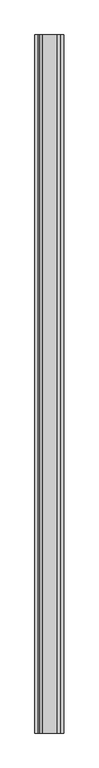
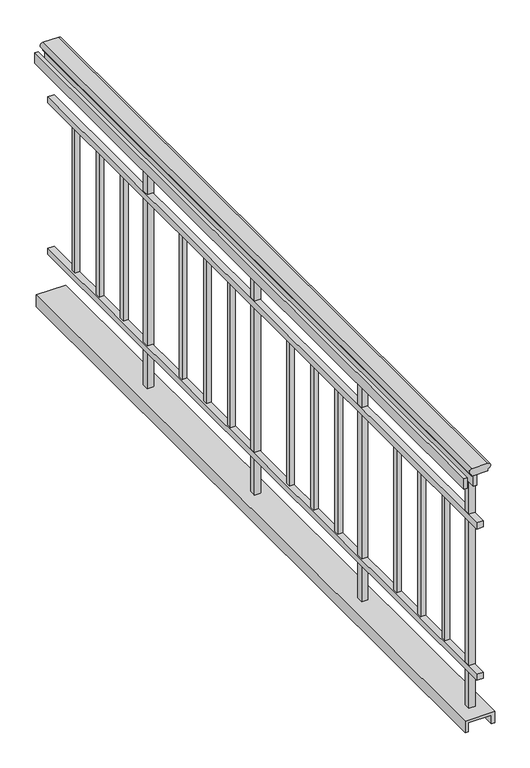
"""IFC4 building model written with IfcOpenShell, lengths in millimetres: railing geometry, Deco Type 4."""

from ifc_helpers import new_model, si_unit, point, frame, frame_2d, origin, place, context, project, spatial, polyline, circle_curve, trimmed, segment, composite_curve, outline, extrude, source, transform, mapped, element, save


def railing_8500788b(model_context):
    return source(origin(), model_context, "Body", "SweptSolid", [
        extrude(outline(composite_curve([segment(polyline([(4197.35, -2069.8969802), (4197.35, -2133.2467328)]), True, "CONTINUOUS"), segment(trimmed(circle_curve(frame_2d((4186.2058145, -2133.2467328)), 11.1441855), [point((4197.35, -2133.2467328))], [point((4175.061629, -2133.2467328))], False, "CARTESIAN"), True, "CONTINUOUS"), segment(polyline([(4175.061629, -2133.2467328), (4165.6, -2133.2467328), (4165.6, -2069.8969802), (4175.1248415, -2069.8969802)]), True, "CONTINUOUS"), segment(trimmed(circle_curve(frame_2d((4186.2374207, -2069.8969802)), 11.1125793), [point((4175.1248415, -2069.8969802))], [point((4197.35, -2069.8969802))], False, "CARTESIAN"), True, "CONTINUOUS")], self_intersect=False)), frame((0.0, -21911.1634775, 0.0), z_axis=(0.0, 1.0, 0.0), x_axis=(0.0, 0.0, 1.0)), (0.0, 0.0, 1.0), 2947.9871405),
        extrude(outline(polyline([(-2126.9718565, -18963.1763369), (-2114.2718565, -18963.1763369), (-2114.2718565, -21911.1634775), (-2126.9718565, -21911.1634775), (-2126.9718565, -18963.1763369)])), frame((0.0, 0.0, 4121.15), z_axis=(0.0, 0.0, 1.0), x_axis=(1.0, 0.0, 0.0)), (0.0, 0.0, 1.0), 44.45),
        extrude(outline(polyline([(-2165.0718565, -18963.1763369), (-2152.3718565, -18963.1763369), (-2152.3718565, -21911.1634775), (-2165.0718565, -21911.1634775), (-2165.0718565, -18963.1763369)])), frame((0.0, 0.0, 4121.15), z_axis=(0.0, 0.0, 1.0), x_axis=(1.0, 0.0, 0.0)), (0.0, 0.0, 1.0), 44.45),
        extrude(outline(polyline([(-2114.1967328, -18963.1763369), (-2088.7967328, -18963.1763369), (-2088.7967328, -21911.1634775), (-2114.1967328, -21911.1634775), (-2114.1967328, -18963.1763369)])), frame((0.0, 0.0, 3937.0), z_axis=(0.0, 0.0, 1.0), x_axis=(1.0, 0.0, 0.0)), (0.0, 0.0, 1.0), 25.4),
        extrude(outline(polyline([(-2114.1967328, -18963.1763369), (-2088.7967328, -18963.1763369), (-2088.7967328, -21911.1634775), (-2114.1967328, -21911.1634775), (-2114.1967328, -18963.1763369)])), frame((0.0, 0.0, 3302.0), z_axis=(0.0, 0.0, 1.0), x_axis=(1.0, 0.0, 0.0)), (0.0, 0.0, 1.0), 25.4),
        extrude(outline(polyline([(3147.8362864, -2042.8343565), (3147.8362864, -2160.3093565), (3098.8, -2160.3093565), (3098.8, -2147.6093565), (3135.1362864, -2147.6093565), (3135.1362864, -2055.5343565), (3098.8, -2055.5343565), (3098.8, -2042.8343565), (3147.8362864, -2042.8343565)])), frame((0.0, -21911.1634775, 0.0), z_axis=(0.0, 1.0, 0.0), x_axis=(0.0, 0.0, 1.0)), (0.0, 0.0, 1.0), 2947.9871405),
        extrude(outline(polyline([(-2111.4186078, -21827.1412079), (-2086.0186078, -21827.1412079), (-2086.0186078, -21852.5412079), (-2111.4186078, -21852.5412079), (-2111.4186078, -21827.1412079)])), frame((0.0, 0.0, 3147.8362864), z_axis=(0.0, 0.0, 1.0), x_axis=(1.0, 0.0, 0.0)), (0.0, 0.0, 1.0), 1017.7637136),
        extrude(outline(polyline([(-2108.2436078, -21663.897579), (-2089.1936078, -21663.897579), (-2089.1936078, -21682.947579), (-2108.2436078, -21682.947579), (-2108.2436078, -21663.897579)])), frame((0.0, 0.0, 3327.4), z_axis=(0.0, 0.0, 1.0), x_axis=(1.0, 0.0, 0.0)), (0.0, 0.0, 1.0), 609.6),
        extrude(outline(polyline([(-2108.2436078, -21497.4789501), (-2089.1936078, -21497.4789501), (-2089.1936078, -21516.5289501), (-2108.2436078, -21516.5289501), (-2108.2436078, -21497.4789501)])), frame((0.0, 0.0, 3327.4), z_axis=(0.0, 0.0, 1.0), x_axis=(1.0, 0.0, 0.0)), (0.0, 0.0, 1.0), 609.6),
        extrude(outline(polyline([(-2108.2436078, -21331.0603212), (-2089.1936078, -21331.0603212), (-2089.1936078, -21350.1103212), (-2108.2436078, -21350.1103212), (-2108.2436078, -21331.0603212)])), frame((0.0, 0.0, 3327.4), z_axis=(0.0, 0.0, 1.0), x_axis=(1.0, 0.0, 0.0)), (0.0, 0.0, 1.0), 609.6),
        extrude(outline(polyline([(-2111.4186078, -21090.1444228), (-2086.0186078, -21090.1444228), (-2086.0186078, -21115.5444228), (-2111.4186078, -21115.5444228), (-2111.4186078, -21090.1444228)])), frame((0.0, 0.0, 3147.8362864), z_axis=(0.0, 0.0, 1.0), x_axis=(1.0, 0.0, 0.0)), (0.0, 0.0, 1.0), 1017.7637136),
        extrude(outline(polyline([(-2108.2436078, -20926.9007939), (-2089.1936078, -20926.9007939), (-2089.1936078, -20945.9507939), (-2108.2436078, -20945.9507939), (-2108.2436078, -20926.9007939)])), frame((0.0, 0.0, 3327.4), z_axis=(0.0, 0.0, 1.0), x_axis=(1.0, 0.0, 0.0)), (0.0, 0.0, 1.0), 609.6),
        extrude(outline(polyline([(-2108.2436078, -20760.482165), (-2089.1936078, -20760.482165), (-2089.1936078, -20779.532165), (-2108.2436078, -20779.532165), (-2108.2436078, -20760.482165)])), frame((0.0, 0.0, 3327.4), z_axis=(0.0, 0.0, 1.0), x_axis=(1.0, 0.0, 0.0)), (0.0, 0.0, 1.0), 609.6),
        extrude(outline(polyline([(-2108.2436078, -20594.0635361), (-2089.1936078, -20594.0635361), (-2089.1936078, -20613.1135361), (-2108.2436078, -20613.1135361), (-2108.2436078, -20594.0635361)])), frame((0.0, 0.0, 3327.4), z_axis=(0.0, 0.0, 1.0), x_axis=(1.0, 0.0, 0.0)), (0.0, 0.0, 1.0), 609.6),
        extrude(outline(polyline([(-2111.4186078, -20353.1476377), (-2086.0186078, -20353.1476377), (-2086.0186078, -20378.5476377), (-2111.4186078, -20378.5476377), (-2111.4186078, -20353.1476377)])), frame((0.0, 0.0, 3147.8362864), z_axis=(0.0, 0.0, 1.0), x_axis=(1.0, 0.0, 0.0)), (0.0, 0.0, 1.0), 1017.7637136),
        extrude(outline(polyline([(-2108.2436078, -20189.9040087), (-2089.1936078, -20189.9040087), (-2089.1936078, -20208.9540087), (-2108.2436078, -20208.9540087), (-2108.2436078, -20189.9040087)])), frame((0.0, 0.0, 3327.4), z_axis=(0.0, 0.0, 1.0), x_axis=(1.0, 0.0, 0.0)), (0.0, 0.0, 1.0), 609.6),
        extrude(outline(polyline([(-2108.2436078, -20023.4853798), (-2089.1936078, -20023.4853798), (-2089.1936078, -20042.5353798), (-2108.2436078, -20042.5353798), (-2108.2436078, -20023.4853798)])), frame((0.0, 0.0, 3327.4), z_axis=(0.0, 0.0, 1.0), x_axis=(1.0, 0.0, 0.0)), (0.0, 0.0, 1.0), 609.6),
        extrude(outline(polyline([(-2108.2436078, -19857.0667509), (-2089.1936078, -19857.0667509), (-2089.1936078, -19876.1167509), (-2108.2436078, -19876.1167509), (-2108.2436078, -19857.0667509)])), frame((0.0, 0.0, 3327.4), z_axis=(0.0, 0.0, 1.0), x_axis=(1.0, 0.0, 0.0)), (0.0, 0.0, 1.0), 609.6),
        extrude(outline(polyline([(-2111.4186078, -19616.1508525), (-2086.0186078, -19616.1508525), (-2086.0186078, -19641.5508525), (-2111.4186078, -19641.5508525), (-2111.4186078, -19616.1508525)])), frame((0.0, 0.0, 3147.8362864), z_axis=(0.0, 0.0, 1.0), x_axis=(1.0, 0.0, 0.0)), (0.0, 0.0, 1.0), 1017.7637136),
        extrude(outline(polyline([(-2108.2436078, -19452.9072236), (-2089.1936078, -19452.9072236), (-2089.1936078, -19471.9572236), (-2108.2436078, -19471.9572236), (-2108.2436078, -19452.9072236)])), frame((0.0, 0.0, 3327.4), z_axis=(0.0, 0.0, 1.0), x_axis=(1.0, 0.0, 0.0)), (0.0, 0.0, 1.0), 609.6),
        extrude(outline(polyline([(-2108.2436078, -19286.4885947), (-2089.1936078, -19286.4885947), (-2089.1936078, -19305.5385947), (-2108.2436078, -19305.5385947), (-2108.2436078, -19286.4885947)])), frame((0.0, 0.0, 3327.4), z_axis=(0.0, 0.0, 1.0), x_axis=(1.0, 0.0, 0.0)), (0.0, 0.0, 1.0), 609.6),
        extrude(outline(polyline([(-2108.2436078, -19120.0699658), (-2089.1936078, -19120.0699658), (-2089.1936078, -19139.1199658), (-2108.2436078, -19139.1199658), (-2108.2436078, -19120.0699658)])), frame((0.0, 0.0, 3327.4), z_axis=(0.0, 0.0, 1.0), x_axis=(1.0, 0.0, 0.0)), (0.0, 0.0, 1.0), 609.6),
    ])


if __name__ == "__main__":
    model = new_model("IFC4")
    model_context = context("Model", 3, world=origin())
    ifc_project = project(units=[si_unit("LENGTHUNIT", "METRE", prefix="MILLI")], contexts=[model_context])
    site = spatial("IfcSite", under=ifc_project)
    building = spatial("IfcBuilding", under=site)
    placement = place(None, origin())
    railing_shape = railing_8500788b(model_context)
    element("IfcRailing", 1, ObjectType="Deco Type 4", at=placement, inside=building, context=model_context, shape_type="MappedRepresentation", body=[
        mapped(railing_shape, transform((0.0, 0.0, 0.0), x_axis=(1.0, 0.0, 0.0), y_axis=(0.0, 1.0, 0.0), z_axis=(0.0, 0.0, 1.0))),
    ])
    save(model, "model.ifc")
